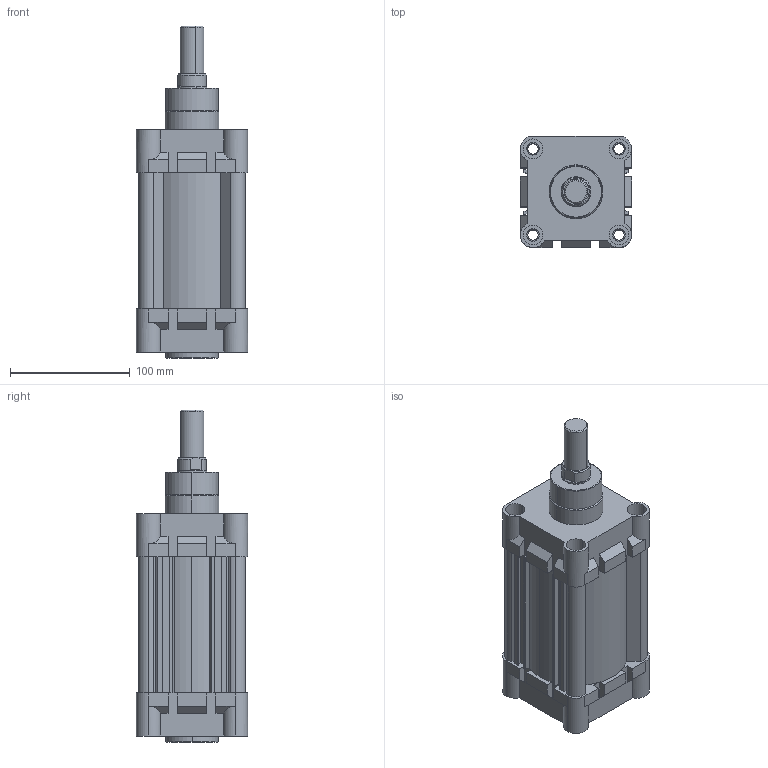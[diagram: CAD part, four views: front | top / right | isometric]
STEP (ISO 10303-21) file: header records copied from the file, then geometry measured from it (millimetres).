
FILE_DESCRIPTION (( 'STEP AP214' ), '1' );
FILE_NAME ('RIC_80_75_WEB.STEP', '2020-09-23T07:57:54', ( '' ), ( '' ), 'SwSTEP 2.0', 'SolidWorks 2018', '' );
FILE_SCHEMA (( 'AUTOMOTIVE_DESIGN' ));
Length unit declared in the file: millimetre
Products named in the file (5): RIC_80_ONKAPAK_WEB; RIC_80_ARKA_KAPAK_WEB; RIC_80_BORU_WEB; RIC_80_75_WEB; RIC_80_MIL_WEB
Assembly tree (4 placements, depth 2):
  RIC_80_75_WEB
    RIC_80_ARKA_KAPAK_WEB
    RIC_80_BORU_WEB
    RIC_80_ONKAPAK_WEB
    RIC_80_MIL_WEB
Bounding box: 93 x 93 x 277.6 mm (x, y, z)
Volume: 790826.3 mm3; surface area: 202270.4 mm2
Topology: 4 solids, 4 shells, 468 faces, 1241 edges, 819 vertices
Faces by surface type: plane 246, cylinder 161, bspline 44, cone 11, torus 6
Entity records: 19109 total; most frequent: CARTESIAN_POINT 5717, ORIENTED_EDGE 2482, DIRECTION 2302, EDGE_CURVE 1241, VERTEX_POINT 819, LINE 790, VECTOR 790, AXIS2_PLACEMENT_3D 756
